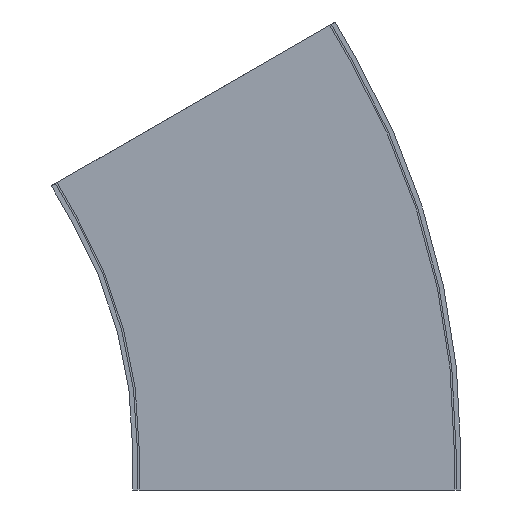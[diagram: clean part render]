
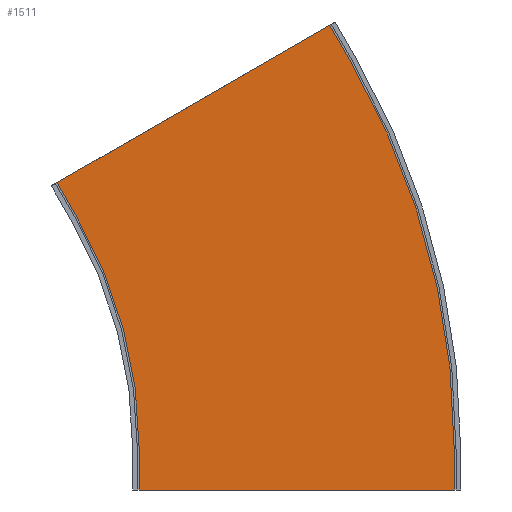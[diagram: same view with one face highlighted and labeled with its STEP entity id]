
A CAD part, front view. The second image highlights one B-rep face of the part: STEP entity #1511.
In plain terms, the highlighted planar face has unit normal (0, -1, 0).
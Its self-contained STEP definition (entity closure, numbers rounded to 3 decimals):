
#15 = EDGE_CURVE ( 'NONE', #1455, #474, #1514, .T. ) ;
#33 = DIRECTION ( 'NONE',  ( 0., 1., 0. ) ) ;
#36 = DIRECTION ( 'NONE',  ( -1., 0., 0. ) ) ;
#94 = CARTESIAN_POINT ( 'NONE',  ( 1003.2, -68.25, 0. ) ) ;
#97 = CARTESIAN_POINT ( 'NONE',  ( 596.8, -68.25, -52.5 ) ) ;
#111 = ORIENTED_EDGE ( 'NONE', *, *, #2250, .F. ) ;
#255 = VECTOR ( 'NONE', #1009, 1000. ) ;
#303 = CARTESIAN_POINT ( 'NONE',  ( 1003.2, -68.25, -52.5 ) ) ;
#307 = DIRECTION ( 'NONE',  ( 0.5, 0., -0.866 ) ) ;
#333 = ORIENTED_EDGE ( 'NONE', *, *, #15, .F. ) ;
#341 = AXIS2_PLACEMENT_3D ( 'NONE', #613, #33, #2282 ) ;
#392 = ORIENTED_EDGE ( 'NONE', *, *, #1736, .F. ) ;
#457 = EDGE_CURVE ( 'NONE', #852, #979, #2096, .T. ) ;
#468 = CIRCLE ( 'NONE', #1737, 596.8 ) ;
#474 = VERTEX_POINT ( 'NONE', #2021 ) ;
#509 = VECTOR ( 'NONE', #2153, 1000. ) ;
#529 = VECTOR ( 'NONE', #2121, 1000. ) ;
#590 = VECTOR ( 'NONE', #2220, 1000. ) ;
#613 = CARTESIAN_POINT ( 'NONE',  ( 0., -68.25, 0. ) ) ;
#758 = VECTOR ( 'NONE', #307, 1000. ) ;
#790 = CARTESIAN_POINT ( 'NONE',  ( 0., -68.25, -52.5 ) ) ;
#796 = CIRCLE ( 'NONE', #341, 1003.2 ) ;
#811 = CARTESIAN_POINT ( 'NONE',  ( 596.8, -68.25, -52.5 ) ) ;
#818 = EDGE_CURVE ( 'NONE', #979, #474, #468, .T. ) ;
#836 = ORIENTED_EDGE ( 'NONE', *, *, #457, .T. ) ;
#852 = VERTEX_POINT ( 'NONE', #1563 ) ;
#869 = EDGE_CURVE ( 'NONE', #2090, #1455, #931, .T. ) ;
#876 = AXIS2_PLACEMENT_3D ( 'NONE', #1604, #2367, #36 ) ;
#931 = LINE ( 'NONE', #790, #255 ) ;
#954 = EDGE_LOOP ( 'NONE', ( #1909, #333, #1044, #2346, #392, #1225, #111, #836 ) ) ;
#979 = VERTEX_POINT ( 'NONE', #1400 ) ;
#997 = CARTESIAN_POINT ( 'NONE',  ( -26.25, -68.25, 45.466 ) ) ;
#1009 = DIRECTION ( 'NONE',  ( -1., 0., 0. ) ) ;
#1044 = ORIENTED_EDGE ( 'NONE', *, *, #869, .F. ) ;
#1053 = VECTOR ( 'NONE', #1870, 1000. ) ;
#1063 = EDGE_CURVE ( 'NONE', #2090, #1104, #1410, .T. ) ;
#1104 = VERTEX_POINT ( 'NONE', #94 ) ;
#1143 = LINE ( 'NONE', #1249, #758 ) ;
#1201 = PLANE ( 'NONE',  #876 ) ;
#1225 = ORIENTED_EDGE ( 'NONE', *, *, #2476, .F. ) ;
#1249 = CARTESIAN_POINT ( 'NONE',  ( 842.547, -68.25, 547.066 ) ) ;
#1265 = LINE ( 'NONE', #997, #529 ) ;
#1364 = DIRECTION ( 'NONE',  ( -1., 0., 0. ) ) ;
#1400 = CARTESIAN_POINT ( 'NONE',  ( 516.844, -68.25, 298.4 ) ) ;
#1410 = LINE ( 'NONE', #303, #1053 ) ;
#1455 = VERTEX_POINT ( 'NONE', #811 ) ;
#1511 = ADVANCED_FACE ( 'NONE', ( #2389 ), #1201, .F. ) ;
#1514 = LINE ( 'NONE', #97, #509 ) ;
#1563 = CARTESIAN_POINT ( 'NONE',  ( 490.594, -68.25, 343.866 ) ) ;
#1604 = CARTESIAN_POINT ( 'NONE',  ( 516.844, -68.25, 298.4 ) ) ;
#1667 = CARTESIAN_POINT ( 'NONE',  ( 490.594, -68.25, 343.866 ) ) ;
#1679 = CARTESIAN_POINT ( 'NONE',  ( 1003.2, -68.25, -52.5 ) ) ;
#1736 = EDGE_CURVE ( 'NONE', #2351, #1104, #796, .T. ) ;
#1737 = AXIS2_PLACEMENT_3D ( 'NONE', #2472, #2289, #1364 ) ;
#1830 = CARTESIAN_POINT ( 'NONE',  ( 868.797, -68.25, 501.6 ) ) ;
#1870 = DIRECTION ( 'NONE',  ( 0., 0., 1. ) ) ;
#1909 = ORIENTED_EDGE ( 'NONE', *, *, #818, .T. ) ;
#2021 = CARTESIAN_POINT ( 'NONE',  ( 596.8, -68.25, 0. ) ) ;
#2090 = VERTEX_POINT ( 'NONE', #1679 ) ;
#2096 = LINE ( 'NONE', #1667, #590 ) ;
#2121 = DIRECTION ( 'NONE',  ( 0.866, 0., 0.5 ) ) ;
#2153 = DIRECTION ( 'NONE',  ( 0., 0., 1. ) ) ;
#2178 = CARTESIAN_POINT ( 'NONE',  ( 842.547, -68.25, 547.066 ) ) ;
#2220 = DIRECTION ( 'NONE',  ( 0.5, 0., -0.866 ) ) ;
#2250 = EDGE_CURVE ( 'NONE', #852, #2397, #1265, .T. ) ;
#2282 = DIRECTION ( 'NONE',  ( -1., 0., 0. ) ) ;
#2289 = DIRECTION ( 'NONE',  ( 0., 1., 0. ) ) ;
#2346 = ORIENTED_EDGE ( 'NONE', *, *, #1063, .T. ) ;
#2351 = VERTEX_POINT ( 'NONE', #1830 ) ;
#2367 = DIRECTION ( 'NONE',  ( 0., 1., 0. ) ) ;
#2389 = FACE_OUTER_BOUND ( 'NONE', #954, .T. ) ;
#2397 = VERTEX_POINT ( 'NONE', #2178 ) ;
#2472 = CARTESIAN_POINT ( 'NONE',  ( 0., -68.25, 0. ) ) ;
#2476 = EDGE_CURVE ( 'NONE', #2397, #2351, #1143, .T. ) ;
